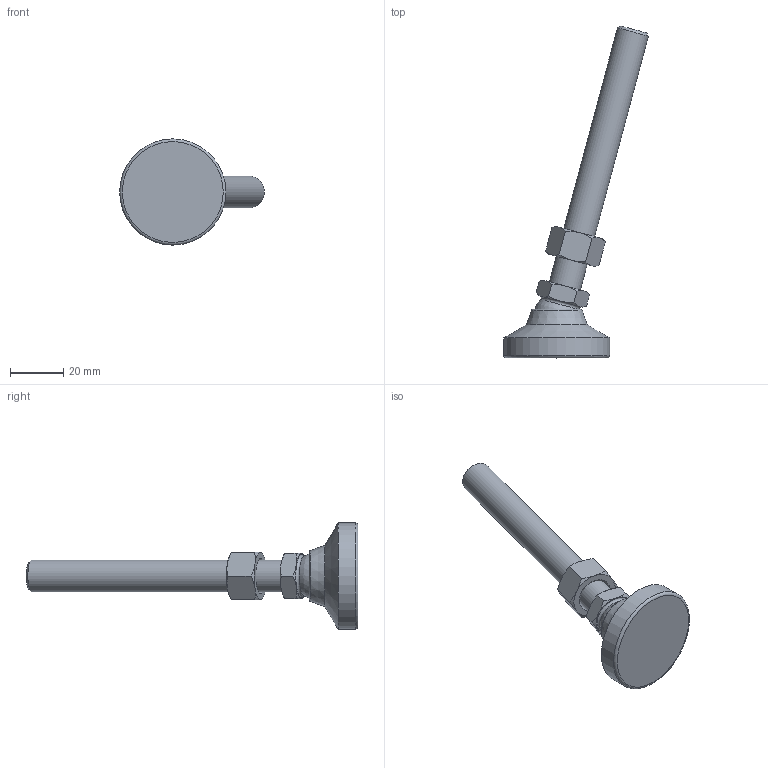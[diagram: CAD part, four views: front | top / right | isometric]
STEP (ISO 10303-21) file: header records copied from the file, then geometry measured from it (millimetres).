
FILE_DESCRIPTION( ( 'STEP AP214' ), ' ' );
FILE_NAME( 'O:/ganter_2015/teil_2/2_5/gn343_2/gn343_2_ks/Levelling foot with threaded stud GN 343.2-40-M12-100-KS-(-15).stp', '2015-10-26T09:10:30', ( '' ), ( '' ), ' ', 'PARTsolutions', ' ' );
FILE_SCHEMA( ( 'AUTOMOTIVE_DESIGN { 1 0 10303 214 1 1 1 1 }' ) );
Length unit declared in the file: millimetre
Products named in the file (4): Levelling foot with threaded stud GN 343.2-40-M12-100-KS-(-15); _Levelling foot with threaded stud GN 343.2-40-M12-100-KS-(-15)_foot; _Gelenkfuss mit Schraube GN 343.2-40-M12-100-KS-(-15)_screw; _GLevelling foot with threaded stud GN 343.2-40-M12-100-KS-(-15)_nut
Assembly tree (3 placements, depth 2):
  Levelling foot with threaded stud GN 343.2-40-M12-100-KS-(-15)
    _Levelling foot with threaded stud GN 343.2-40-M12-100-KS-(-15)_foot
    _Gelenkfuss mit Schraube GN 343.2-40-M12-100-KS-(-15)_screw
    _GLevelling foot with threaded stud GN 343.2-40-M12-100-KS-(-15)_nut
Bounding box: 54.47 x 124.99 x 40 mm (x, y, z)
Volume: 30876.8 mm3; surface area: 10730.7 mm2
Topology: 3 solids, 3 shells, 56 faces, 117 edges, 68 vertices
Faces by surface type: cone 29, plane 19, torus 3, cylinder 3, sphere 2
Full cylindrical faces by diameter (mm): 10.106 x1, 12 x1, 40 x1
Entity records: 2066 total; most frequent: CARTESIAN_POINT 498, DIRECTION 212, ORIENTED_EDGE 200, AXIS2_PLACEMENT_3D 100, EDGE_CURVE 100, EDGE_LOOP 72, VERTEX_POINT 66, FACE_OUTER_BOUND 62
